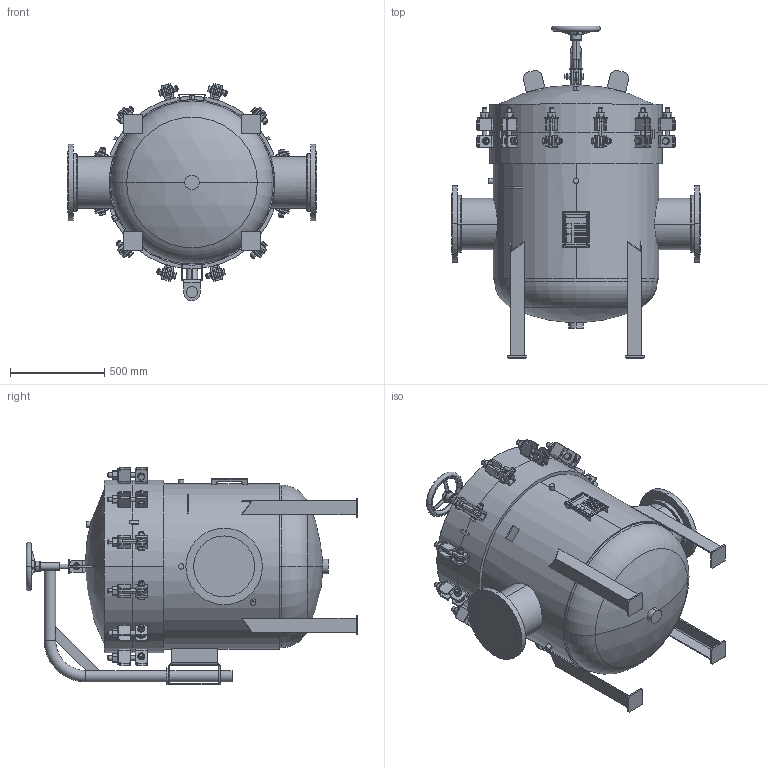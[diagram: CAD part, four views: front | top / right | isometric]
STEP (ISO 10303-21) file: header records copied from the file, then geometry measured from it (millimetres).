
FILE_DESCRIPTION (( 'STEP AP203' ), '1' );
FILE_NAME ('002004-01248.step', '2025-12-09T14:45:00', ( '' ), ( '' ), 'SwSTEP 2.0', 'SolidWorks 2023', '' );
FILE_SCHEMA (( 'CONFIG_CONTROL_DESIGN' ));
Length unit declared in the file: inch
Products named in the file (1): 002004-01248
Bounding box: 1320.8 x 1763.65 x 1154.39 mm (x, y, z)
Volume: 408262145 mm3; surface area: 10625618 mm2
Topology: 42 solids, 42 shells, 2369 faces, 5617 edges, 3505 vertices
Faces by surface type: plane 1011, cylinder 692, cone 514, torus 106, bspline 36, sphere 10
Entity records: 76949 total; most frequent: CARTESIAN_POINT 22560, DIRECTION 11487, ORIENTED_EDGE 11210, EDGE_CURVE 5605, AXIS2_PLACEMENT_3D 4550, VERTEX_POINT 3505, EDGE_LOOP 2598, LINE 2387
